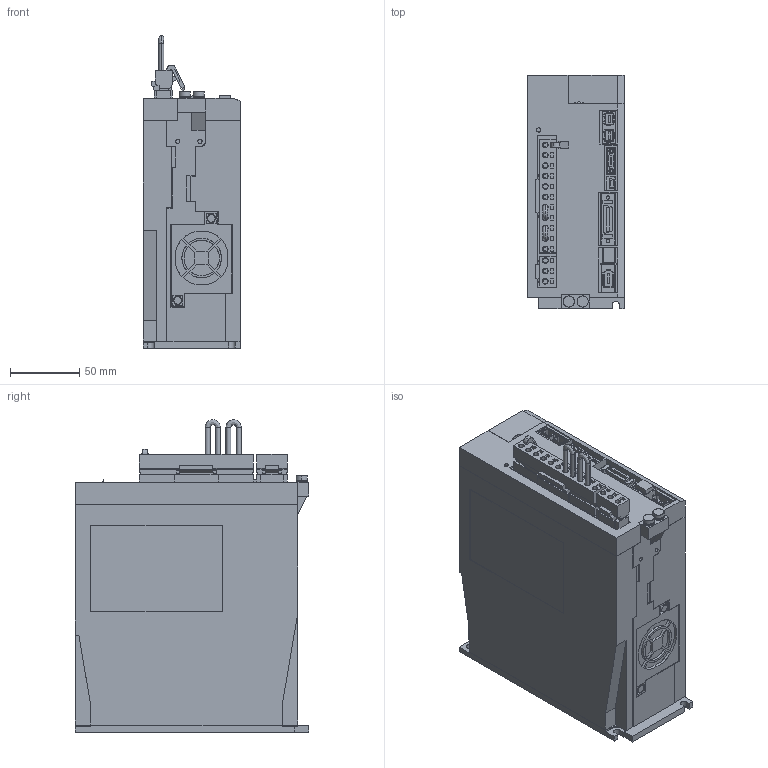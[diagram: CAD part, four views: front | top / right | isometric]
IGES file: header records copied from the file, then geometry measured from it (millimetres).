
Start section: SolidWorks IGES file using analytic representation for surfaces
Global section: file name: D:\YASKAWA\sgd7s_7r6a20a.IGS; native system: SolidWorks 2006 by SolidWorks Corporation; preprocessor: SolidWorks 2006 by SolidWorks Corporation; author: yamanouchi; date: 140306.133132; units: millimetre
Bounding box: 70.5 x 168 x 225 mm (x, y, z)
Surface area: 151544.5 mm2 (no closed solid volume)
Topology: 0 solids, 0 shells, 1868 faces, 14716 edges, 14716 vertices
Faces by surface type: bspline 1652, revolution 216
